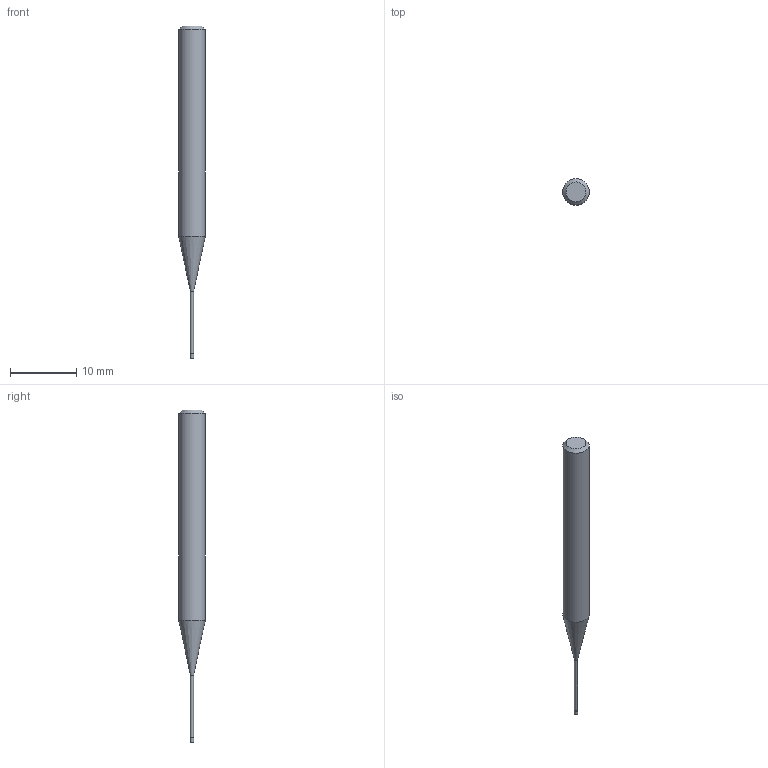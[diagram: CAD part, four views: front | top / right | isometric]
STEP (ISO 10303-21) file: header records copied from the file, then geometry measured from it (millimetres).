
FILE_DESCRIPTION((''),'2;1');
FILE_NAME('C:\Users\nsx150\AppData\Local\Temp\Mastercam 2021\17T8Q8S9EB\TEMP.step','2021-04-21T14:24:38',(''),(''),'STEP Write','Mastercam 2021 ... CNC Software, Inc.','');
FILE_SCHEMA(('AUTOMOTIVE_DESIGN'));
Length unit declared in the file: millimetre
Products named in the file (1): None
Bounding box: 4 x 4 x 50 mm (x, y, z)
Volume: 437.6 mm3; surface area: 481.3 mm2
Topology: 2 solids, 2 shells, 9 faces, 12 edges, 7 vertices
Faces by surface type: plane 4, cylinder 3, cone 2
Full cylindrical faces by diameter (mm): 0.46 x1, 0.5 x1, 4 x1
Entity records: 211 total; most frequent: DIRECTION 36, CARTESIAN_POINT 25, AXIS2_PLACEMENT_3D 18, ORIENTED_EDGE 14, EDGE_LOOP 14, STYLED_ITEM 12, ADVANCED_FACE 9, FACE_BOUND 8
